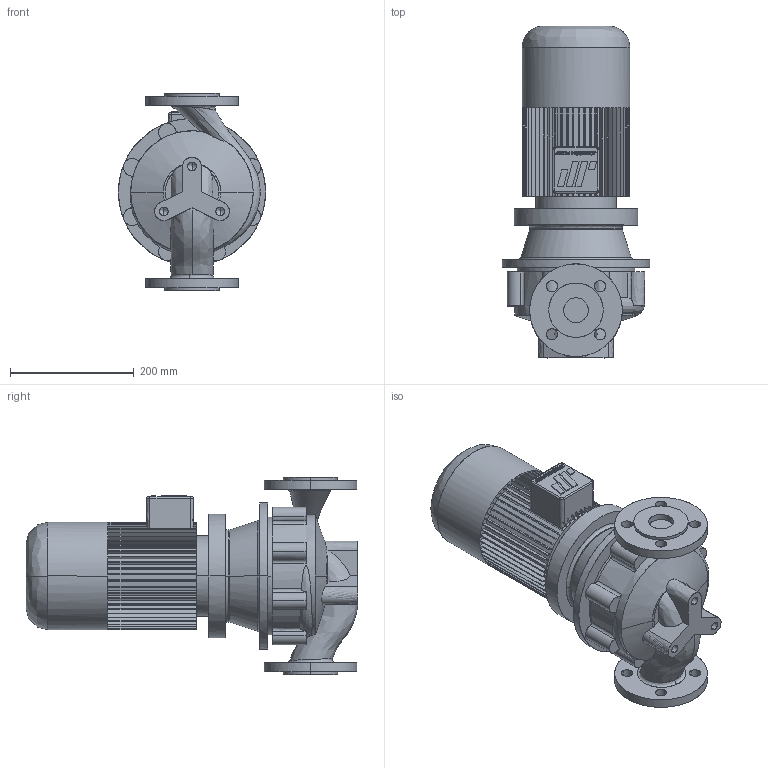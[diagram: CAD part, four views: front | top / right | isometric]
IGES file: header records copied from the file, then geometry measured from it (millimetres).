
Start section: CombiLine
Global section: file name: CLB_40-160_IEC90S_ND10.igs; native system:  By UGS Corp.; preprocessor: XPlus GENERIC/IGES 3.0; author: Stageplaats; organization: Johnson Pump Water B.V.; date: 20070716.105051; units: millimetre
Bounding box: 238 x 537 x 320 mm (x, y, z)
Surface area: 672676.2 mm2 (no closed solid volume)
Topology: 0 solids, 0 shells, 538 faces, 3279 edges, 3273 vertices
Faces by surface type: bspline 538
